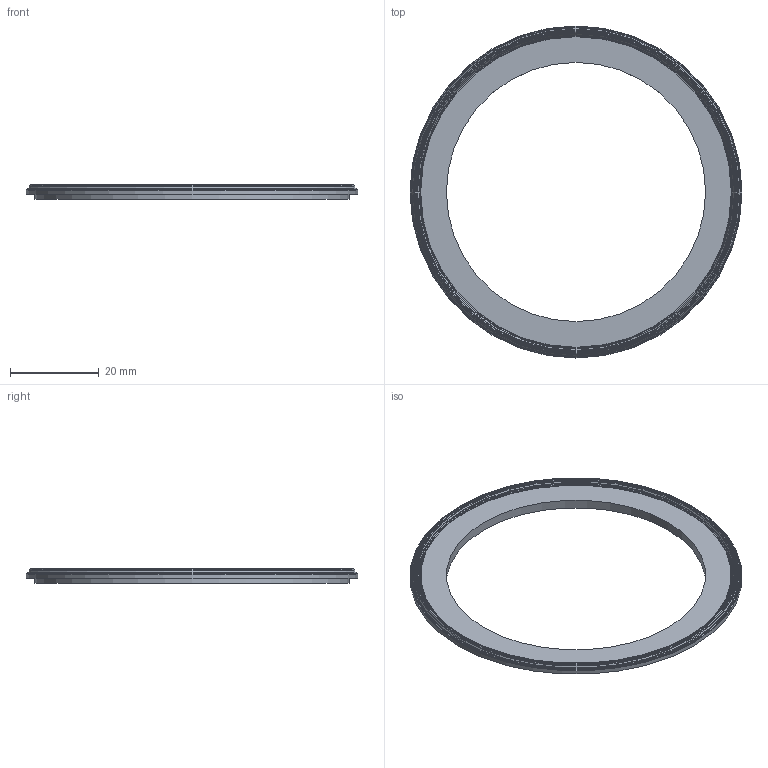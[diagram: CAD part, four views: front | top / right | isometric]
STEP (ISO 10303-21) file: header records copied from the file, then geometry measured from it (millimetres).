
FILE_DESCRIPTION(('Open CASCADE Model'),'2;1');
FILE_NAME('Open CASCADE Shape Model','2026-11-11T21:53:51',('Author'),( 'Open CASCADE'),'Open CASCADE STEP processor 8.0','build123d', 'Unknown');
FILE_SCHEMA(('AUTOMOTIVE_DESIGN { 1 0 10303 214 1 1 1 1 }'));
Length unit declared in the file: millimetre
Products named in the file (1): SOLID
Bounding box: 74.8 x 74.8 x 3.3 mm (x, y, z)
Volume: 3404.4 mm3; surface area: 4547.6 mm2
Topology: 1 solids, 1 shells, 28 faces, 53 edges, 28 vertices
Faces by surface type: cone 22, plane 3, cylinder 3
Full cylindrical faces by diameter (mm): 58.4 x1, 70.8 x1, 74.8 x1
Entity records: 1392 total; most frequent: DIRECTION 245, CARTESIAN_POINT 216, LINE 125, VECTOR 125, ORIENTED_EDGE 106, PCURVE 106, DEFINITIONAL_REPRESENTATION 106, AXIS2_PLACEMENT_3D 57
